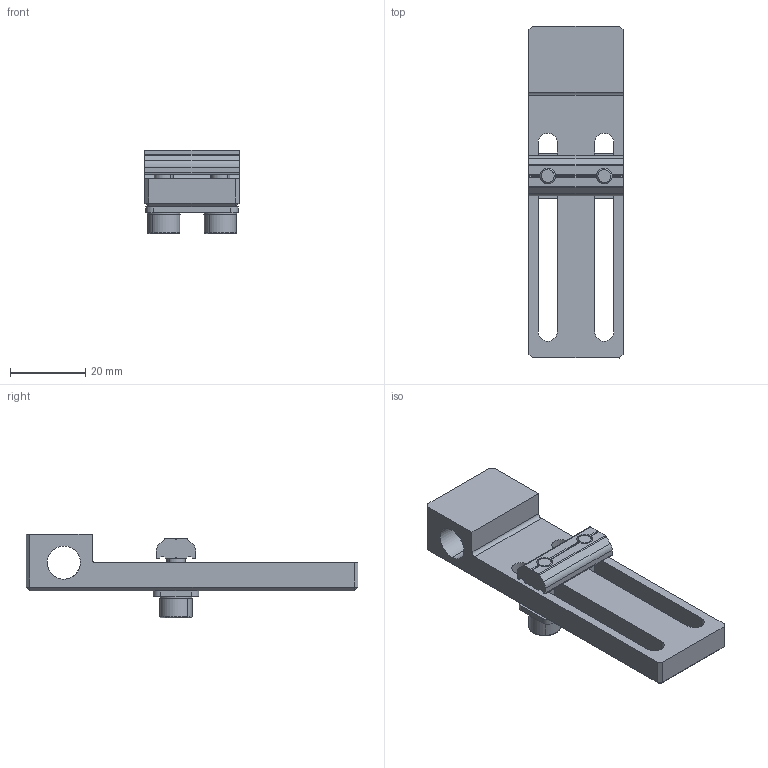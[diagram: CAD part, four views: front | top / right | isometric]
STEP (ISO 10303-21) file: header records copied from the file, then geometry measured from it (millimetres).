
FILE_DESCRIPTION (( 'STEP AP214' ), '1' );
FILE_NAME ('SVC-G18T.STEP', '2023-01-18T02:47:33', ( 'Windows User' ), ( 'P R C' ), 'SwSTEP 2.0', 'SolidWorks 2019', '' );
FILE_SCHEMA (( 'AUTOMOTIVE_DESIGN' ));
Length unit declared in the file: millimetre
Products named in the file (1): SVC-G18T
Bounding box: 25 x 88 x 22.1 mm (x, y, z)
Volume: 16359.3 mm3; surface area: 10644.5 mm2
Topology: 7 solids, 7 shells, 526 faces, 1519 edges, 1002 vertices
Faces by surface type: plane 462, cylinder 56, cone 4, bspline 4
Entity records: 23603 total; most frequent: CARTESIAN_POINT 3522, ORIENTED_EDGE 3038, DIRECTION 2999, EDGE_CURVE 1519, VERTEX_POINT 1002, AXIS2_PLACEMENT_3D 1001, VECTOR 997, LINE 997
